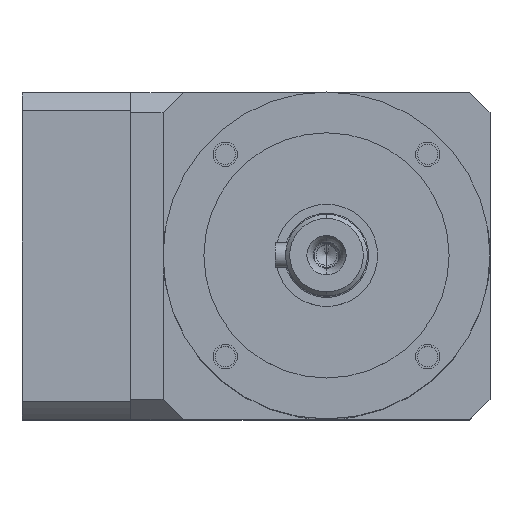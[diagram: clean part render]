
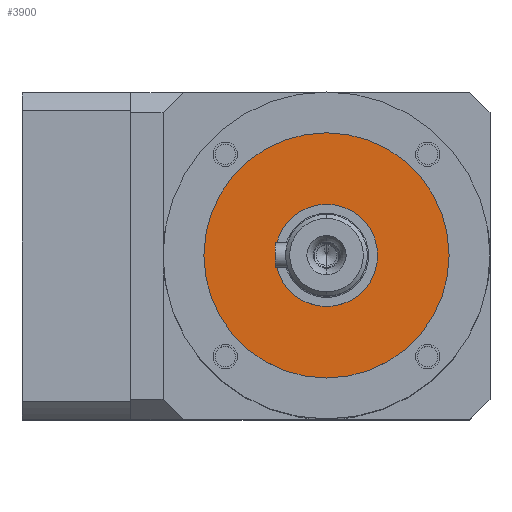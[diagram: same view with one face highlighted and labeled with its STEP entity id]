
A CAD part, top view. The second image highlights one B-rep face of the part: STEP entity #3900.
In plain terms, the highlighted planar face has unit normal (0, 0, 1).
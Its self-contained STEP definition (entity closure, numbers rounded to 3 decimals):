
#171=CARTESIAN_POINT('',(74.5,0.,124.5));
#172=DIRECTION('',(0.,0.,-1.));
#173=DIRECTION('',(0.,-1.,0.));
#174=AXIS2_PLACEMENT_3D('',#171,#172,#173);
#176=CARTESIAN_POINT('',(74.5,0.,124.5));
#177=DIRECTION('',(0.,0.,1.));
#178=DIRECTION('',(0.,-1.,0.));
#179=AXIS2_PLACEMENT_3D('',#176,#177,#178);
#186=CARTESIAN_POINT('',(74.5,0.,124.5));
#187=DIRECTION('',(0.,0.,1.));
#188=DIRECTION('',(0.,-1.,0.));
#189=AXIS2_PLACEMENT_3D('',#186,#187,#188);
#2645=CARTESIAN_POINT('',(74.5,0.,124.5));
#2646=DIRECTION('',(0.,0.,-1.));
#2647=DIRECTION('',(0.,-1.,0.));
#2648=AXIS2_PLACEMENT_3D('',#2645,#2646,#2647);
#2871=CARTESIAN_POINT('',(74.5,-12.5,124.5));
#2873=VERTEX_POINT('',#2871);
#2875=CARTESIAN_POINT('',(74.5,12.5,124.5));
#2877=VERTEX_POINT('',#2875);
#2878=CARTESIAN_POINT('',(74.5,-30.,124.5));
#2879=CARTESIAN_POINT('',(74.5,30.,124.5));
#2880=VERTEX_POINT('',#2878);
#2881=VERTEX_POINT('',#2879);
#3885=CARTESIAN_POINT('',(74.5,0.,124.5));
#3886=DIRECTION('',(0.,0.,1.));
#3887=DIRECTION('',(0.,1.,0.));
#3888=AXIS2_PLACEMENT_3D('',#3885,#3886,#3887);
#3889=PLANE('',#3888);
#3891=ORIENTED_EDGE('',*,*,#3890,.F.);
#3893=ORIENTED_EDGE('',*,*,#3892,.T.);
#3894=EDGE_LOOP('',(#3891,#3893));
#3895=FACE_OUTER_BOUND('',#3894,.F.);
#3896=ORIENTED_EDGE('',*,*,#3871,.F.);
#3897=ORIENTED_EDGE('',*,*,#3853,.T.);
#3898=EDGE_LOOP('',(#3896,#3897));
#3899=FACE_BOUND('',#3898,.F.);
#175=CIRCLE('',#174,12.5);
#180=CIRCLE('',#179,12.5);
#190=CIRCLE('',#189,30.);
#2649=CIRCLE('',#2648,30.);
#3853=EDGE_CURVE('',#2873,#2877,#180,.T.);
#3871=EDGE_CURVE('',#2873,#2877,#175,.T.);
#3890=EDGE_CURVE('',#2880,#2881,#190,.T.);
#3892=EDGE_CURVE('',#2880,#2881,#2649,.T.);
#3900=ADVANCED_FACE('',(#3895,#3899),#3889,.T.);
